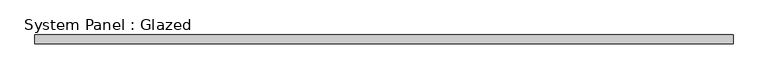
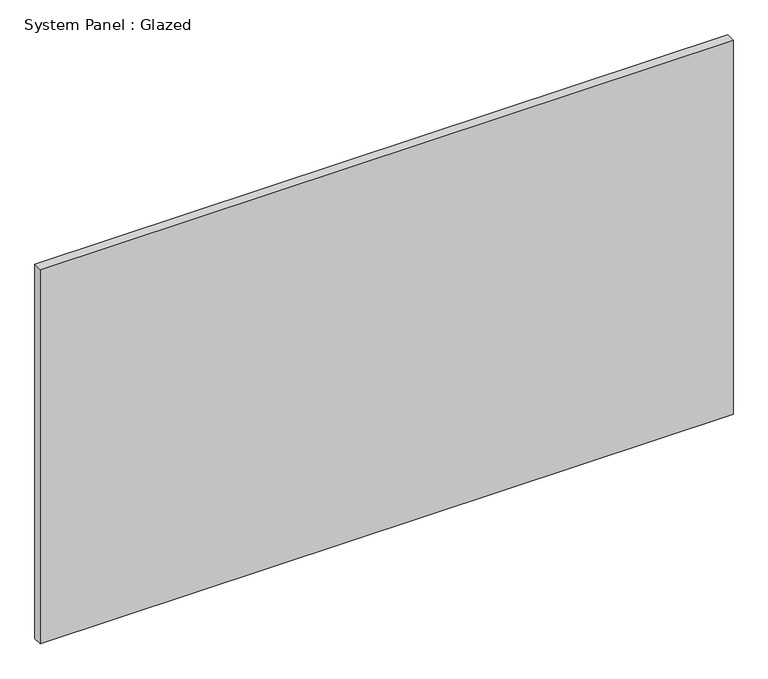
"""IFC4 building model written with IfcOpenShell, lengths in millimetres: plate geometry, System Panel : Glazed."""

from ifc_helpers import new_model, si_unit, origin, origin_with_axes, place, context, project, spatial, polyline, outline, extrude, source, transform, mapped, element, save


def system_panel_glazed_1b9d6098(model_context):
    return source(origin(), model_context, "Body", "SweptSolid", [
        extrude(outline(polyline([(984.25, -44.45), (-984.25, -44.45), (-984.25, -19.05), (984.25, -19.05), (984.25, -44.45)])), origin_with_axes(), (0.0, 0.0, 1.0), 1123.95),
    ])


if __name__ == "__main__":
    model = new_model("IFC4")
    model_context = context("Model", 3, world=origin())
    ifc_project = project(units=[si_unit("LENGTHUNIT", "METRE", prefix="MILLI")], contexts=[model_context])
    site = spatial("IfcSite", under=ifc_project)
    building = spatial("IfcBuilding", under=site)
    placement = place(None, origin())
    system_panel_glazed_shape = system_panel_glazed_1b9d6098(model_context)
    element("IfcPlate", 1, ObjectType="System Panel : Glazed", at=placement, inside=building, context=model_context, shape_type="MappedRepresentation", body=[
        mapped(system_panel_glazed_shape, transform((0.0, 0.0, 0.0), x_axis=(1.0, 0.0, 0.0), y_axis=(0.0, 1.0, 0.0), z_axis=(0.0, 0.0, 1.0))),
    ])
    save(model, "model.ifc")
